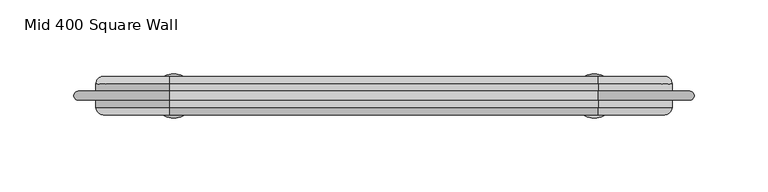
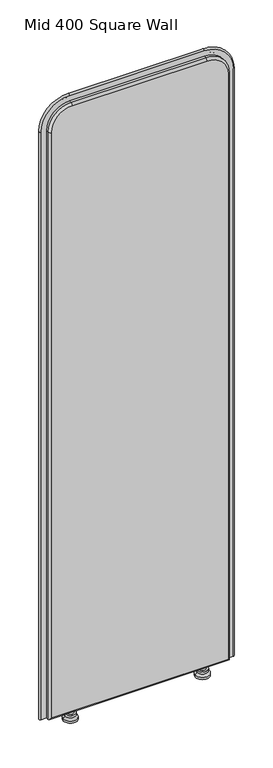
"""IFC4 building model written with IfcOpenShell, lengths in millimetres: furniture geometry, DBLTD_Sixteen3_PrivacyScreens_Artus_Square : Mid 400 Square Wall."""

import ifcopenshell
import ifcopenshell.guid

model = None  # the IFC model being written
_history = None  # IfcOwnerHistory: only IFC2X3 demands one
_inside = {}  # id of a spatial element -> (the spatial element, [elements in it])
_under = {}  # id of a project, library or spatial element -> (it, [spatial elements below it])
_declared = {}  # id of a project -> (the project, [libraries it declares])
_typed = {}  # id of a type object -> (the type object, [elements of that type])
_made_of = {}  # id of a material, layer set ... -> (it, [elements and type objects made of it])


def new_model(schema):
    """Start an empty IFC model of exactly this schema.

    Asked for "IFC4X3", IfcOpenShell would pick the latest addendum, in which some entities
    have other attributes; the version numbers below select the first issue.
    IFC2X3 requires an IfcOwnerHistory on every rooted entity: one is made here for all.
    """
    global model, _history
    if schema == "IFC4X3":
        model = ifcopenshell.file(schema_version=(4, 3, 0, 0))
    else:
        model = ifcopenshell.file(schema=schema)
    _inside.clear()
    _under.clear()
    _declared.clear()
    _typed.clear()
    _made_of.clear()
    _history = None
    if model.schema == "IFC2X3":
        org = make("IfcOrganization", Name="unknown")
        user = make(
            "IfcPersonAndOrganization",
            ThePerson=make("IfcPerson", FamilyName="unknown"),
            TheOrganization=org,
        )
        app = make(
            "IfcApplication",
            ApplicationDeveloper=org,
            Version="unknown",
            ApplicationFullName="unknown",
            ApplicationIdentifier="unknown",
        )
        _history = make(
            "IfcOwnerHistory",
            OwningUser=user,
            OwningApplication=app,
            ChangeAction="ADDED",
            CreationDate=0,
        )
    return model


def make(cls, **values):
    """One entity of the class cls with the attributes given. An attribute that is None is left unset."""
    return model.create_entity(
        cls, **{name: value for name, value in values.items() if value is not None}
    )


def rooted(cls, **values):
    """An entity with a GlobalId (a new one), such as an element, a storey or a relation."""
    return make(cls, GlobalId=ifcopenshell.guid.new(), OwnerHistory=_history, **values)


def si_unit(unit_type, name, prefix=None):
    """IfcSIUnit, for example si_unit("LENGTHUNIT", "METRE", prefix="MILLI")."""
    return make("IfcSIUnit", UnitType=unit_type, Prefix=prefix, Name=name)


def assignment(units):
    """IfcUnitAssignment: the units of a project."""
    return None if units is None else make("IfcUnitAssignment", Units=units)


def point(xyz):
    """IfcCartesianPoint."""
    return None if xyz is None else make("IfcCartesianPoint", Coordinates=xyz)


def direction(xyz):
    """IfcDirection."""
    return None if xyz is None else make("IfcDirection", DirectionRatios=xyz)


def frame(location, z_axis=None, x_axis=None):
    """IfcAxis2Placement3D, a coordinate frame: its origin and axes. An axis left out is left unset."""
    return make(
        "IfcAxis2Placement3D",
        Location=point(location),
        Axis=direction(z_axis),
        RefDirection=direction(x_axis),
    )


def origin():
    """The frame at (0, 0, 0) with its axes left unset."""
    return frame((0.0, 0.0, 0.0))


def place(relative_to, where):
    """IfcLocalPlacement: puts the frame where relative to a parent placement (None: the world)."""
    return make(
        "IfcLocalPlacement", PlacementRelTo=relative_to, RelativePlacement=where
    )


def context(
    kind, dimensions, precision=None, world=None, true_north=None, identifier=None
):
    """IfcGeometricRepresentationContext, for example the 3D "Model" context."""
    return make(
        "IfcGeometricRepresentationContext",
        ContextIdentifier=identifier,
        ContextType=kind,
        CoordinateSpaceDimension=dimensions,
        Precision=precision,
        WorldCoordinateSystem=world,
        TrueNorth=true_north,
    )


def project(units=None, contexts=None):
    """IfcProject with its units and contexts."""
    return rooted(
        "IfcProject",
        Name="project",
        RepresentationContexts=contexts,
        UnitsInContext=assignment(units),
    )


def spatial(cls, under=None, at=None, **own):
    """A site, building, storey or space (cls), placed at a placement, below another one or the project."""
    s = rooted(cls, ObjectPlacement=at, **own)
    if under is not None:
        _under.setdefault(under.id(), (under, []))[1].append(s)
    return s


def polyline(points):
    """IfcPolyline through the points."""
    return make("IfcPolyline", Points=[point(p) for p in points])


def circle_curve(where, radius):
    """IfcCircle in the frame where."""
    return make("IfcCircle", Position=where, Radius=radius)


def ellipse_curve(where, semi_axis1, semi_axis2):
    """IfcEllipse in the frame where."""
    return make(
        "IfcEllipse", Position=where, SemiAxis1=semi_axis1, SemiAxis2=semi_axis2
    )


def trimmed(basis, trim1, trim2, sense, master):
    """IfcTrimmedCurve: the piece of a basis curve between two trims."""
    return make(
        "IfcTrimmedCurve",
        BasisCurve=basis,
        Trim1=trim1,
        Trim2=trim2,
        SenseAgreement=sense,
        MasterRepresentation=master,
    )


def shape(context_of_items, identifier, shape_type, items):
    """IfcShapeRepresentation: the items that make up one representation, for example the "Body"."""
    return make(
        "IfcShapeRepresentation",
        ContextOfItems=context_of_items,
        RepresentationIdentifier=identifier,
        RepresentationType=shape_type,
        Items=items,
    )


def source(mapping_origin, context_of_items, identifier, shape_type, items):
    """IfcRepresentationMap: a shape defined once, which mapped items show again and again."""
    return make(
        "IfcRepresentationMap",
        MappingOrigin=mapping_origin,
        MappedRepresentation=shape(context_of_items, identifier, shape_type, items),
    )


def transform(
    local_origin,
    x_axis=None,
    y_axis=None,
    z_axis=None,
    scale=None,
    scale2=None,
    scale3=None,
    uniform=True,
):
    """IfcCartesianTransformationOperator3D, or its non-uniform kind. x_axis, y_axis, z_axis: its Axis1, 2, 3."""
    if uniform:
        return make(
            "IfcCartesianTransformationOperator3D",
            Axis1=direction(x_axis),
            Axis2=direction(y_axis),
            LocalOrigin=point(local_origin),
            Scale=scale,
            Axis3=direction(z_axis),
        )
    return make(
        "IfcCartesianTransformationOperator3DnonUniform",
        Axis1=direction(x_axis),
        Axis2=direction(y_axis),
        LocalOrigin=point(local_origin),
        Scale=scale,
        Axis3=direction(z_axis),
        Scale2=scale2,
        Scale3=scale3,
    )


def mapped(mapping_source, mapping_target):
    """IfcMappedItem: shows the shape of a source again, moved by a transform."""
    return make(
        "IfcMappedItem", MappingSource=mapping_source, MappingTarget=mapping_target
    )


def made_of(thing, what):
    """Note that an element or type object is made of a material, layer set ...; save() writes the relation."""
    if what is not None:
        _made_of.setdefault(what.id(), (what, []))[1].append(thing)
    return thing


def element(
    cls,
    number,
    at=None,
    inside=None,
    cuts=None,
    type_object=None,
    material=None,
    context=None,
    identifier="Body",
    shape_type=None,
    held_by="IfcProductDefinitionShape",
    body=None,
    shapes=None,
    **own,
):
    """One element of the class cls, such as IfcWall. Its Tag is "e" and its number.

    at: its placement. inside: the storey or other place that contains it. cuts: it is an
    opening in that element (IfcRelVoidsElement). A single representation is given by context,
    identifier, shape_type and body (its items); several are given by shapes. held_by: the class
    of the entity that holds the representations. save() writes the other relations.
    """
    e = rooted(cls, Tag="e%d" % number, ObjectPlacement=at, **own)
    if body is not None:
        shapes = [shape(context, identifier, shape_type, body)]
    if shapes is not None:
        e.Representation = make(held_by, Representations=shapes)
    if inside is not None:
        _inside.setdefault(inside.id(), (inside, []))[1].append(e)
    if cuts is not None:
        rooted(
            "IfcRelVoidsElement", RelatingBuildingElement=cuts, RelatedOpeningElement=e
        )
    if type_object is not None:
        _typed.setdefault(type_object.id(), (type_object, []))[1].append(e)
    return made_of(e, material)


def aggregate(whole, parts):
    """IfcRelAggregates: a whole, such as a stair, and the parts it consists of."""
    return rooted("IfcRelAggregates", RelatingObject=whole, RelatedObjects=parts)


def save(model, path):
    """Write the relations noted so far, then the file.

    IfcRelAggregates (storeys below a building ...), IfcRelContainedInSpatialStructure (elements
    in a storey), IfcRelDefinesByType, IfcRelAssociatesMaterial and IfcRelDeclares: one each for
    every whole, place, type object, material and project.
    """
    for whole, parts in _under.values():
        aggregate(whole, parts)
    for where, things in _inside.values():
        rooted(
            "IfcRelContainedInSpatialStructure",
            RelatedElements=things,
            RelatingStructure=where,
        )
    for kind, things in _typed.values():
        rooted("IfcRelDefinesByType", RelatedObjects=things, RelatingType=kind)
    for what, things in _made_of.values():
        rooted("IfcRelAssociatesMaterial", RelatedObjects=things, RelatingMaterial=what)
    for by, libraries in _declared.values():
        rooted("IfcRelDeclares", RelatingContext=by, RelatedDefinitions=libraries)
    model.write(path)


def plane_surface(at):
    """IfcPlane: the flat surface through the origin of the frame at, square to its z axis."""
    return make("IfcPlane", Position=at)


def cylinder_surface(at, radius):
    """IfcCylindricalSurface: all points at the distance radius from the z axis of the frame at."""
    return make("IfcCylindricalSurface", Position=at, Radius=radius)


def revolved_surface(curve, axis_point, axis_direction):
    """IfcSurfaceOfRevolution: the curve turned about the line through axis_point along axis_direction."""
    return make(
        "IfcSurfaceOfRevolution",
        SweptCurve=make("IfcArbitraryOpenProfileDef", ProfileType="CURVE", Curve=curve),
        AxisPosition=make("IfcAxis1Placement", Location=point(axis_point), Axis=direction(axis_direction)),
    )


def advanced_brep(points, edges, surfaces, faces):
    """IfcAdvancedBrep: a solid bounded by faces that lie on surfaces and meet in shared edges.

    An edge is (start, end): straight between two places in points (the first is 0);
    or (start, end, curve); or (start, end, curve, False) where it runs against its curve.
    A face is (place in surfaces, loops), or (place, loops, False) where it looks against
    its surface's normal. A loop lists edges by number (the first is 1), with a minus sign
    where the edge is run from its end to its start. The first loop is the outer one.
    """
    corners = [point(p) for p in points]
    vertices = [make("IfcVertexPoint", VertexGeometry=c) for c in corners]
    made = []
    for start, end, *more in edges:
        made.append(
            make(
                "IfcEdgeCurve",
                EdgeStart=vertices[start],
                EdgeEnd=vertices[end],
                EdgeGeometry=more[0] if more else make("IfcPolyline", Points=[corners[start], corners[end]]),
                SameSense=more[1] if len(more) > 1 else True,
            )
        )
    hull = []
    for where, loops, *sense in faces:
        bounds = []
        for j, loop in enumerate(loops):
            ring = [make("IfcOrientedEdge", EdgeElement=made[abs(k) - 1], Orientation=k > 0) for k in loop]
            bounds.append(
                make(
                    "IfcFaceOuterBound" if j == 0 else "IfcFaceBound",
                    Bound=make("IfcEdgeLoop", EdgeList=ring),
                    Orientation=True,
                )
            )
        hull.append(make("IfcAdvancedFace", Bounds=bounds, FaceSurface=surfaces[where], SameSense=sense[0] if sense else True))
    return make("IfcAdvancedBrep", Outer=make("IfcClosedShell", CfsFaces=hull))


def mid_400_square_wall_4edd793a(model_context):
    return source(origin(), model_context, "Body", "AdvancedBrep", [
        advanced_brep(
        [(142.2938623, -820.0, 22.0), (135.2938623, -820.0, 22.0), (149.2938623, -820.0, 22.0), (135.2938623, -820.0, 15.0), (149.2938623, -820.0, 15.0), (130.8431626, -820.0, 15.0), (153.744562, -820.0, 15.0), (130.8431626, -820.0, 10.0), (153.744562, -820.0, 10.0), (127.2938623, -820.0, 5.0), (157.2938623, -820.0, 5.0), (127.2938623, -820.0, 0.0), (157.2938623, -820.0, 0.0), (142.2938623, -820.0, 0.0)],
        [
            (0, 1),
            (1, 2, circle_curve(frame((142.2938623, -820.0, 22.0), z_axis=(0.0, 0.0, 1.0), x_axis=(1.0, 0.0, 0.0)), 7.0)),
            (2, 0),
            (2, 1, circle_curve(frame((142.2938623, -820.0, 22.0), z_axis=(0.0, 0.0, 1.0), x_axis=(1.0, 0.0, 0.0)), 7.0)),
            (1, 3),
            (3, 4, circle_curve(frame((142.2938623, -820.0, 15.0), z_axis=(0.0, 0.0, 1.0), x_axis=(1.0, 0.0, 0.0)), 7.0)),
            (4, 2),
            (4, 3, circle_curve(frame((142.2938623, -820.0, 15.0), z_axis=(0.0, 0.0, 1.0), x_axis=(1.0, 0.0, 0.0)), 7.0)),
            (3, 5),
            (5, 6, circle_curve(frame((142.2938623, -820.0, 15.0), z_axis=(0.0, 0.0, 1.0), x_axis=(1.0, 0.0, 0.0)), 11.4506997)),
            (6, 4),
            (6, 5, circle_curve(frame((142.2938623, -820.0, 15.0), z_axis=(0.0, 0.0, 1.0), x_axis=(1.0, 0.0, 0.0)), 11.4506997)),
            (5, 7),
            (7, 8, circle_curve(frame((142.2938623, -820.0, 10.0), z_axis=(0.0, 0.0, 1.0), x_axis=(1.0, 0.0, 0.0)), 11.4506997)),
            (8, 6),
            (8, 7, circle_curve(frame((142.2938623, -820.0, 10.0), z_axis=(0.0, 0.0, 1.0), x_axis=(1.0, 0.0, 0.0)), 11.4506997)),
            (7, 9),
            (9, 10, circle_curve(frame((142.2938623, -820.0, 5.0), z_axis=(0.0, 0.0, 1.0), x_axis=(1.0, 0.0, 0.0)), 15.0)),
            (10, 8),
            (10, 9, circle_curve(frame((142.2938623, -820.0, 5.0), z_axis=(0.0, 0.0, 1.0), x_axis=(1.0, 0.0, 0.0)), 15.0)),
            (9, 11),
            (11, 12, circle_curve(frame((142.2938623, -820.0, 0.0), z_axis=(0.0, 0.0, 1.0), x_axis=(1.0, 0.0, 0.0)), 15.0)),
            (12, 10),
            (12, 11, circle_curve(frame((142.2938623, -820.0, 0.0), z_axis=(0.0, 0.0, 1.0), x_axis=(1.0, 0.0, 0.0)), 15.0)),
            (11, 13),
            (13, 12),
        ],
        [
            plane_surface(frame((142.2938623, -820.0, 22.0), z_axis=(0.0, 0.0, 1.0), x_axis=(1.0, 0.0, 0.0))),
            cylinder_surface(frame((142.2938623, -820.0, 5.0), z_axis=(0.0, 0.0, 1.0), x_axis=(1.0, 0.0, 0.0)), 7.0),
            plane_surface(frame((142.2938623, -820.0, 15.0), z_axis=(0.0, 0.0, 1.0), x_axis=(1.0, 0.0, 0.0))),
            cylinder_surface(frame((142.2938623, -820.0, 5.0), z_axis=(0.0, 0.0, 1.0), x_axis=(1.0, 0.0, 0.0)), 11.4506997),
            revolved_surface(polyline([(157.2938623, -820.0, 5.0), (153.744562, -820.0, 10.0)]), (142.2938623, -820.0, 5.0), (0.0, 0.0, 1.0)),
            cylinder_surface(frame((142.2938623, -820.0, 5.0), z_axis=(0.0, 0.0, 1.0), x_axis=(1.0, 0.0, 0.0)), 15.0),
            plane_surface(frame((142.2938623, -820.0, 0.0), z_axis=(0.0, 0.0, -1.0), x_axis=(1.0, 0.0, 0.0))),
        ],
        [
            (0, [[1, 2, 3]]),
            (0, [[-3, 4, -1]]),
            (1, [[5, 6, 7, -2]]),
            (1, [[-7, 8, -5, -4]]),
            (2, [[9, 10, 11, -6]]),
            (2, [[-11, 12, -9, -8]]),
            (3, [[13, 14, 15, -10]]),
            (3, [[-15, 16, -13, -12]]),
            (4, [[17, 18, 19, -14]]),
            (4, [[-19, 20, -17, -16]]),
            (5, [[21, 22, 23, -18]]),
            (5, [[-23, 24, -21, -20]]),
            (6, [[25, 26, -22]]),
            (6, [[-26, -25, -24]]),
        ],
    ),
        advanced_brep(
        [(-135.2938623, -820.0, 22.0), (-142.2938623, -820.0, 22.0), (-149.2938623, -820.0, 22.0), (-135.2938623, -820.0, 15.0), (-149.2938623, -820.0, 15.0), (-130.8431626, -820.0, 15.0), (-153.744562, -820.0, 15.0), (-130.8431626, -820.0, 10.0), (-153.744562, -820.0, 10.0), (-127.2938623, -820.0, 5.0), (-157.2938623, -820.0, 5.0), (-127.2938623, -820.0, 0.0), (-157.2938623, -820.0, 0.0), (-142.2938623, -820.0, 0.0)],
        [
            (0, 1),
            (1, 2),
            (2, 0, circle_curve(frame((-142.2938623, -820.0, 22.0), z_axis=(0.0, 0.0, 1.0), x_axis=(-1.0, 0.0, 0.0)), 7.0)),
            (0, 2, circle_curve(frame((-142.2938623, -820.0, 22.0), z_axis=(0.0, 0.0, 1.0), x_axis=(-1.0, 0.0, 0.0)), 7.0)),
            (3, 0),
            (2, 4),
            (4, 3, circle_curve(frame((-142.2938623, -820.0, 15.0), z_axis=(0.0, 0.0, 1.0), x_axis=(-1.0, 0.0, 0.0)), 7.0)),
            (3, 4, circle_curve(frame((-142.2938623, -820.0, 15.0), z_axis=(0.0, 0.0, 1.0), x_axis=(-1.0, 0.0, 0.0)), 7.0)),
            (5, 3),
            (4, 6),
            (6, 5, circle_curve(frame((-142.2938623, -820.0, 15.0), z_axis=(0.0, 0.0, 1.0), x_axis=(-1.0, 0.0, 0.0)), 11.4506997)),
            (5, 6, circle_curve(frame((-142.2938623, -820.0, 15.0), z_axis=(0.0, 0.0, 1.0), x_axis=(-1.0, 0.0, 0.0)), 11.4506997)),
            (7, 5),
            (6, 8),
            (8, 7, circle_curve(frame((-142.2938623, -820.0, 10.0), z_axis=(0.0, 0.0, 1.0), x_axis=(-1.0, 0.0, 0.0)), 11.4506997)),
            (7, 8, circle_curve(frame((-142.2938623, -820.0, 10.0), z_axis=(0.0, 0.0, 1.0), x_axis=(-1.0, 0.0, 0.0)), 11.4506997)),
            (9, 7),
            (8, 10),
            (10, 9, circle_curve(frame((-142.2938623, -820.0, 5.0), z_axis=(0.0, 0.0, 1.0), x_axis=(-1.0, 0.0, 0.0)), 15.0)),
            (9, 10, circle_curve(frame((-142.2938623, -820.0, 5.0), z_axis=(0.0, 0.0, 1.0), x_axis=(-1.0, 0.0, 0.0)), 15.0)),
            (11, 9),
            (10, 12),
            (12, 11, circle_curve(frame((-142.2938623, -820.0, 0.0), z_axis=(0.0, 0.0, 1.0), x_axis=(-1.0, 0.0, 0.0)), 15.0)),
            (11, 12, circle_curve(frame((-142.2938623, -820.0, 0.0), z_axis=(0.0, 0.0, 1.0), x_axis=(-1.0, 0.0, 0.0)), 15.0)),
            (13, 11),
            (12, 13),
        ],
        [
            plane_surface(frame((-142.2938623, -820.0, 22.0), z_axis=(0.0, 0.0, 1.0), x_axis=(-1.0, 0.0, 0.0))),
            cylinder_surface(frame((-142.2938623, -820.0, 5.0), z_axis=(0.0, 0.0, -1.0), x_axis=(-1.0, 0.0, 0.0)), 7.0),
            plane_surface(frame((-142.2938623, -820.0, 15.0), z_axis=(0.0, 0.0, 1.0), x_axis=(-1.0, 0.0, 0.0))),
            cylinder_surface(frame((-142.2938623, -820.0, 5.0), z_axis=(0.0, 0.0, -1.0), x_axis=(-1.0, 0.0, 0.0)), 11.4506997),
            revolved_surface(polyline([(-153.744562, -820.0, 10.0), (-157.2938623, -820.0, 5.0)]), (-142.2938623, -820.0, 5.0), (0.0, 0.0, -1.0)),
            cylinder_surface(frame((-142.2938623, -820.0, 5.0), z_axis=(0.0, 0.0, -1.0), x_axis=(-1.0, 0.0, 0.0)), 15.0),
            plane_surface(frame((-142.2938623, -820.0, 0.0), z_axis=(0.0, 0.0, -1.0), x_axis=(-1.0, 0.0, 0.0))),
        ],
        [
            (0, [[1, 2, 3]]),
            (0, [[-2, -1, 4]]),
            (1, [[5, -3, 6, 7]]),
            (1, [[-6, -4, -5, 8]]),
            (2, [[9, -7, 10, 11]]),
            (2, [[-10, -8, -9, 12]]),
            (3, [[13, -11, 14, 15]]),
            (3, [[-14, -12, -13, 16]]),
            (4, [[17, -15, 18, 19]]),
            (4, [[-18, -16, -17, 20]]),
            (5, [[21, -19, 22, 23]]),
            (5, [[-22, -20, -21, 24]]),
            (6, [[25, -23, 26]]),
            (6, [[-26, -24, -25]]),
        ],
    ),
        advanced_brep(
        [(-190.0, -807.0, 27.0), (-190.0, -807.0, 1360.0), (-145.0, -807.0, 1405.0), (145.0, -807.0, 1405.0), (190.0, -807.0, 1360.0), (190.0, -807.0, 27.0), (190.0, -833.0, 27.0), (190.0, -833.0, 1360.0), (145.0, -833.0, 1405.0), (-145.0, -833.0, 1405.0), (-190.0, -833.0, 1360.0), (-190.0, -833.0, 27.0), (145.0, -812.0, 1410.0), (-145.0, -812.0, 1410.0), (-145.0, -828.0, 1410.0), (145.0, -828.0, 1410.0), (-195.0, -812.0, 1360.0), (-195.0, -828.0, 1360.0), (-195.0, -812.0, 22.0), (-195.0, -828.0, 22.0), (195.0, -812.0, 22.0), (195.0, -828.0, 22.0), (195.0, -812.0, 1360.0), (195.0, -828.0, 1360.0)],
        [
            (0, 1),
            (1, 2, circle_curve(frame((-145.0, -807.0, 1360.0), z_axis=(0.0, 1.0, 0.0), x_axis=(0.0, 0.0, 1.0)), 45.0)),
            (2, 3),
            (3, 4, circle_curve(frame((145.0, -807.0, 1360.0), z_axis=(0.0, 1.0, 0.0), x_axis=(1.0, 0.0, 0.0)), 45.0)),
            (4, 5),
            (5, 0),
            (6, 7),
            (7, 8, circle_curve(frame((145.0, -833.0, 1360.0), z_axis=(0.0, -1.0, 0.0), x_axis=(1.0, 0.0, 0.0)), 45.0)),
            (8, 9),
            (9, 10, circle_curve(frame((-145.0, -833.0, 1360.0), z_axis=(0.0, -1.0, 0.0), x_axis=(0.0, 0.0, 1.0)), 45.0)),
            (10, 11),
            (11, 6),
            (12, 13),
            (13, 14),
            (14, 15),
            (15, 12),
            (13, 16, circle_curve(frame((-145.0, -812.0, 1360.0), z_axis=(0.0, -1.0, 0.0), x_axis=(1.0, 0.0, 0.0)), 50.0)),
            (16, 17),
            (17, 14, circle_curve(frame((-145.0, -828.0, 1360.0), z_axis=(0.0, 1.0, 0.0), x_axis=(1.0, 0.0, 0.0)), 50.0)),
            (16, 18),
            (18, 19),
            (19, 17),
            (18, 20),
            (20, 21),
            (21, 19),
            (20, 22),
            (22, 23),
            (23, 21),
            (15, 23, circle_curve(frame((145.0, -828.0, 1360.0), z_axis=(0.0, 1.0, 0.0), x_axis=(1.0, 0.0, 0.0)), 50.0)),
            (22, 12, circle_curve(frame((145.0, -812.0, 1360.0), z_axis=(0.0, -1.0, 0.0), x_axis=(1.0, 0.0, 0.0)), 50.0)),
            (18, 0, ellipse_curve(frame((-190.0, -812.0, 27.0), z_axis=(0.7071067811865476, 0.0, -0.7071067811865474), x_axis=(0.7071067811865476, 0.0, 0.7071067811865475)), 7.0710678, 5.0)),
            (5, 20, ellipse_curve(frame((190.0, -812.0, 27.0), z_axis=(-0.7071067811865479, 0.0, -0.707106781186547), x_axis=(0.7071067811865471, 0.0, -0.7071067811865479)), 7.0710678, 5.0)),
            (11, 19, ellipse_curve(frame((-190.0, -828.0, 27.0), z_axis=(0.7071067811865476, 0.0, -0.7071067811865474), x_axis=(0.7071067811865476, 0.0, 0.7071067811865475)), 7.0710678, 5.0)),
            (21, 6, ellipse_curve(frame((190.0, -828.0, 27.0), z_axis=(-0.7071067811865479, 0.0, -0.707106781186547), x_axis=(0.7071067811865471, 0.0, -0.7071067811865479)), 7.0710678, 5.0)),
            (4, 22, circle_curve(frame((190.0, -812.0, 1360.0), z_axis=(0.0, 0.0, -1.0), x_axis=(1.0, 0.0, 0.0)), 5.0)),
            (23, 7, circle_curve(frame((190.0, -828.0, 1360.0), z_axis=(0.0, 0.0, -1.0), x_axis=(1.0, 0.0, 0.0)), 5.0)),
            (3, 12, circle_curve(frame((145.0, -812.0, 1405.0), z_axis=(1.0, 0.0, 0.0), x_axis=(0.0, 0.0, 1.0)), 5.0)),
            (15, 8, circle_curve(frame((145.0, -828.0, 1405.0), z_axis=(1.0, 0.0, 0.0), x_axis=(0.0, 0.0, 1.0)), 5.0)),
            (2, 13, circle_curve(frame((-145.0, -812.0, 1405.0), z_axis=(1.0, 0.0, 0.0), x_axis=(0.0, 0.0, 1.0)), 5.0)),
            (14, 9, circle_curve(frame((-145.0, -828.0, 1405.0), z_axis=(1.0, 0.0, 0.0), x_axis=(0.0, 0.0, 1.0)), 5.0)),
            (1, 16, circle_curve(frame((-190.0, -812.0, 1360.0), z_axis=(0.0, 0.0, 1.0), x_axis=(-1.0, 0.0, 0.0)), 5.0)),
            (17, 10, circle_curve(frame((-190.0, -828.0, 1360.0), z_axis=(0.0, 0.0, 1.0), x_axis=(-1.0, 0.0, 0.0)), 5.0)),
        ],
        [
            plane_surface(frame((-145.0, -807.0, 1410.0), z_axis=(0.0, 1.0, 0.0), x_axis=(-1.0, 0.0, 0.0))),
            plane_surface(frame((-145.0, -833.0, 1410.0), z_axis=(0.0, -1.0, 0.0), x_axis=(1.0, 0.0, 0.0))),
            plane_surface(frame((145.0, -807.0, 1410.0), z_axis=(0.0, 0.0, 1.0), x_axis=(0.0, -1.0, 0.0))),
            cylinder_surface(frame((-145.0, -833.0, 1360.0), z_axis=(0.0, 1.0, 0.0), x_axis=(1.0, 0.0, 0.0)), 50.0),
            plane_surface(frame((-195.0, -807.0, 1360.0), z_axis=(-1.0, 0.0, 0.0), x_axis=(0.0, -1.0, 0.0))),
            plane_surface(frame((-195.0, -807.0, 22.0), z_axis=(0.0, 0.0, -1.0), x_axis=(0.0, -1.0, 0.0))),
            plane_surface(frame((195.0, -807.0, 22.0), z_axis=(1.0, 0.0, 0.0), x_axis=(0.0, -1.0, 0.0))),
            cylinder_surface(frame((145.0, -833.0, 1360.0), z_axis=(0.0, 1.0, 0.0), x_axis=(1.0, 0.0, 0.0)), 50.0),
            cylinder_surface(frame((-195.0, -812.0, 27.0), z_axis=(1.0, 0.0, 0.0), x_axis=(0.0, 0.0, -1.0)), 5.0),
            cylinder_surface(frame((-195.0, -828.0, 27.0), z_axis=(1.0, 0.0, 0.0), x_axis=(0.0, 0.0, -1.0)), 5.0),
            cylinder_surface(frame((190.0, -812.0, 22.0), z_axis=(0.0, 0.0, 1.0), x_axis=(1.0, 0.0, 0.0)), 5.0),
            cylinder_surface(frame((190.0, -828.0, 22.0), z_axis=(0.0, 0.0, 1.0), x_axis=(1.0, 0.0, 0.0)), 5.0),
            revolved_surface(trimmed(ellipse_curve(frame((190.0, -812.0, 1360.0), z_axis=(0.0, 0.0, 1.0), x_axis=(1.0, 0.0, 0.0)), 5.0, 5.0), [point((195.0, -812.0, 1360.0))], [point((190.0, -807.0, 1360.0))], True, "CARTESIAN"), (145.0, -807.0, 1360.0), (0.0, 1.0, 0.0)),
            revolved_surface(trimmed(ellipse_curve(frame((190.0, -828.0, 1360.0), z_axis=(0.0, 0.0, 1.0), x_axis=(1.0, 0.0, 0.0)), 5.0, 5.0), [point((190.0, -833.0, 1360.0))], [point((195.0, -828.0, 1360.0))], True, "CARTESIAN"), (145.0, -807.0, 1360.0), (0.0, 1.0, 0.0)),
            cylinder_surface(frame((145.0, -812.0, 1405.0), z_axis=(-1.0, 0.0, 0.0), x_axis=(0.0, 0.0, 1.0)), 5.0),
            cylinder_surface(frame((145.0, -828.0, 1405.0), z_axis=(-1.0, 0.0, 0.0), x_axis=(0.0, 0.0, 1.0)), 5.0),
            revolved_surface(trimmed(ellipse_curve(frame((-145.0, -812.0, 1405.0), z_axis=(-1.0, 0.0, 0.0), x_axis=(0.0, 0.0, 1.0)), 5.0, 5.0), [point((-145.0, -812.0, 1410.0))], [point((-145.0, -807.0, 1405.0))], True, "CARTESIAN"), (-145.0, -807.0, 1360.0), (0.0, 1.0, 0.0)),
            revolved_surface(trimmed(ellipse_curve(frame((-145.0, -828.0, 1405.0), z_axis=(-1.0, 0.0, 0.0), x_axis=(0.0, 0.0, 1.0)), 5.0, 5.0), [point((-145.0, -833.0, 1405.0))], [point((-145.0, -828.0, 1410.0))], True, "CARTESIAN"), (-145.0, -807.0, 1360.0), (0.0, 1.0, 0.0)),
            cylinder_surface(frame((-190.0, -812.0, 1360.0), z_axis=(0.0, 0.0, -1.0), x_axis=(-1.0, 0.0, 0.0)), 5.0),
            cylinder_surface(frame((-190.0, -828.0, 1360.0), z_axis=(0.0, 0.0, -1.0), x_axis=(-1.0, 0.0, 0.0)), 5.0),
        ],
        [
            (0, [[1, 2, 3, 4, 5, 6]]),
            (1, [[7, 8, 9, 10, 11, 12]]),
            (2, [[13, 14, 15, 16]]),
            (3, [[17, 18, 19, -14]]),
            (4, [[20, 21, 22, -18]]),
            (5, [[23, 24, 25, -21]]),
            (6, [[26, 27, 28, -24]]),
            (7, [[29, -27, 30, -16]]),
            (8, [[-23, 31, -6, 32]]),
            (9, [[-12, 33, -25, 34]]),
            (10, [[-5, 35, -26, -32]]),
            (11, [[-28, 36, -7, -34]]),
            (12, [[-4, 37, -30, -35]]),
            (13, [[-29, 38, -8, -36]]),
            (14, [[-3, 39, -13, -37]]),
            (15, [[-15, 40, -9, -38]]),
            (16, [[-2, 41, -17, -39]]),
            (17, [[-19, 42, -10, -40]]),
            (18, [[-20, -41, -1, -31]]),
            (19, [[-11, -42, -22, -33]]),
        ],
    ),
        advanced_brep(
        [(206.9577057, -823.0, 22.0), (195.0, -823.0, 22.0), (195.0, -817.0, 22.0), (206.9577057, -817.0, 22.0), (206.9577057, -817.0, 1360.0), (206.9577057, -823.0, 1360.0), (195.0, -817.0, 1360.0), (145.0, -817.0, 1410.0), (-145.0, -817.0, 1410.0), (-195.0, -817.0, 1360.0), (-195.0, -817.0, 22.0), (-206.9577057, -817.0, 22.0), (-206.9577057, -817.0, 1360.0), (-145.0, -817.0, 1421.9577057), (145.0, -817.0, 1421.9577057), (195.0, -823.0, 1360.0), (145.0, -823.0, 1421.9577057), (-145.0, -823.0, 1421.9577057), (-206.9577057, -823.0, 1360.0), (-206.9577057, -823.0, 22.0), (-195.0, -823.0, 22.0), (-195.0, -823.0, 1360.0), (-145.0, -823.0, 1410.0), (145.0, -823.0, 1410.0)],
        [
            (0, 1),
            (1, 2),
            (2, 3),
            (3, 0, circle_curve(frame((206.9577057, -820.0, 22.0), z_axis=(0.0, 0.0, -1.0), x_axis=(1.0, 0.0, 0.0)), 3.0)),
            (3, 4),
            (4, 5, circle_curve(frame((206.9577057, -820.0, 1360.0), z_axis=(0.0, 0.0, -1.0), x_axis=(1.0, 0.0, 0.0)), 3.0)),
            (5, 0),
            (2, 6),
            (6, 7, circle_curve(frame((145.0, -817.0, 1360.0), z_axis=(0.0, -1.0, 0.0), x_axis=(1.0, 0.0, 0.0)), 50.0)),
            (7, 8),
            (8, 9, circle_curve(frame((-145.0, -817.0, 1360.0), z_axis=(0.0, -1.0, 0.0), x_axis=(0.0, 0.0, 1.0)), 50.0)),
            (9, 10),
            (10, 11),
            (11, 12),
            (12, 13, circle_curve(frame((-145.0, -817.0, 1360.0), z_axis=(0.0, 1.0, 0.0), x_axis=(0.0, 0.0, 1.0)), 61.9577057)),
            (13, 14),
            (14, 4, circle_curve(frame((145.0, -817.0, 1360.0), z_axis=(0.0, 1.0, 0.0), x_axis=(1.0, 0.0, 0.0)), 61.9577057)),
            (1, 15),
            (15, 6),
            (5, 16, circle_curve(frame((145.0, -823.0, 1360.0), z_axis=(0.0, -1.0, 0.0), x_axis=(1.0, 0.0, 0.0)), 61.9577057)),
            (16, 17),
            (17, 18, circle_curve(frame((-145.0, -823.0, 1360.0), z_axis=(0.0, -1.0, 0.0), x_axis=(0.0, 0.0, 1.0)), 61.9577057)),
            (18, 19),
            (19, 20),
            (20, 21),
            (21, 22, circle_curve(frame((-145.0, -823.0, 1360.0), z_axis=(0.0, 1.0, 0.0), x_axis=(0.0, 0.0, 1.0)), 50.0)),
            (22, 23),
            (23, 15, circle_curve(frame((145.0, -823.0, 1360.0), z_axis=(0.0, 1.0, 0.0), x_axis=(1.0, 0.0, 0.0)), 50.0)),
            (14, 16, circle_curve(frame((145.0, -820.0, 1421.9577057), z_axis=(1.0, 0.0, 0.0), x_axis=(0.0, 0.0, 1.0)), 3.0)),
            (23, 7),
            (13, 17, circle_curve(frame((-145.0, -820.0, 1421.9577057), z_axis=(1.0, 0.0, 0.0), x_axis=(0.0, 0.0, 1.0)), 3.0)),
            (22, 8),
            (12, 18, circle_curve(frame((-206.9577057, -820.0, 1360.0), z_axis=(0.0, 0.0, 1.0), x_axis=(-1.0, 0.0, 0.0)), 3.0)),
            (21, 9),
            (19, 11, circle_curve(frame((-206.9577057, -820.0, 22.0), z_axis=(0.0, 0.0, -1.0), x_axis=(-1.0, 0.0, 0.0)), 3.0)),
            (10, 20),
        ],
        [
            plane_surface(frame((195.0, -807.0, 22.0), z_axis=(0.0, 0.0, -1.0), x_axis=(1.0, 0.0, 0.0))),
            cylinder_surface(frame((206.9577057, -820.0, 22.0), z_axis=(0.0, 0.0, -1.0), x_axis=(1.0, 0.0, 0.0)), 3.0),
            plane_surface(frame((206.9577057, -817.0, 22.0), z_axis=(0.0, 1.0, 0.0), x_axis=(0.0, 0.0, 1.0))),
            plane_surface(frame((195.0, -817.0, 22.0), z_axis=(-1.0, 0.0, 0.0), x_axis=(0.0, 0.0, 1.0))),
            plane_surface(frame((195.0, -823.0, 22.0), z_axis=(0.0, -1.0, 0.0), x_axis=(0.0, 0.0, 1.0))),
            revolved_surface(trimmed(ellipse_curve(frame((206.9577057, -820.0, 1360.0), z_axis=(0.0, 0.0, 1.0), x_axis=(1.0, 0.0, 0.0)), 3.0, 3.0), [point((206.9577057, -823.0, 1360.0))], [point((206.9577057, -817.0, 1360.0))], True, "CARTESIAN"), (145.0, -807.0, 1360.0), (0.0, 1.0, 0.0)),
            revolved_surface(polyline([(195.0, -817.0, 1360.0), (195.0, -823.0, 1360.0)]), (145.0, -807.0, 1360.0), (0.0, 1.0, 0.0)),
            cylinder_surface(frame((145.0, -820.0, 1421.9577057), z_axis=(1.0, 0.0, 0.0), x_axis=(0.0, 0.0, 1.0)), 3.0),
            plane_surface(frame((145.0, -817.0, 1410.0), z_axis=(0.0, 0.0, -1.0), x_axis=(-1.0, 0.0, 0.0))),
            revolved_surface(trimmed(ellipse_curve(frame((-145.0, -820.0, 1421.9577057), z_axis=(-1.0, 0.0, 0.0), x_axis=(0.0, 0.0, 1.0)), 3.0, 3.0), [point((-145.0, -823.0, 1421.9577057))], [point((-145.0, -817.0, 1421.9577057))], True, "CARTESIAN"), (-145.0, -807.0, 1360.0), (0.0, 1.0, 0.0)),
            revolved_surface(polyline([(-145.0, -817.0, 1410.0), (-145.0, -823.0, 1410.0)]), (-145.0, -807.0, 1360.0), (0.0, 1.0, 0.0)),
            plane_surface(frame((-195.0, -807.0, 22.0), z_axis=(0.0, 0.0, -1.0), x_axis=(-1.0, 0.0, 0.0))),
            cylinder_surface(frame((-206.9577057, -820.0, 1360.0), z_axis=(0.0, 0.0, 1.0), x_axis=(-1.0, 0.0, 0.0)), 3.0),
            plane_surface(frame((-195.0, -817.0, 1360.0), z_axis=(1.0, 0.0, 0.0), x_axis=(0.0, 0.0, -1.0))),
        ],
        [
            (0, [[1, 2, 3, 4]]),
            (1, [[5, 6, 7, -4]]),
            (2, [[8, 9, 10, 11, 12, 13, 14, 15, 16, 17, -5, -3]]),
            (3, [[18, 19, -8, -2]]),
            (4, [[-7, 20, 21, 22, 23, 24, 25, 26, 27, 28, -18, -1]]),
            (5, [[29, -20, -6, -17]]),
            (6, [[30, -9, -19, -28]]),
            (7, [[-16, 31, -21, -29]]),
            (8, [[-27, 32, -10, -30]]),
            (9, [[33, -22, -31, -15]]),
            (10, [[34, -11, -32, -26]]),
            (11, [[35, -13, 36, -24]]),
            (12, [[-14, -35, -23, -33]]),
            (13, [[-25, -36, -12, -34]]),
        ],
    ),
    ])


if __name__ == "__main__":
    model = new_model("IFC4")
    model_context = context("Model", 3, world=origin())
    ifc_project = project(units=[si_unit("LENGTHUNIT", "METRE", prefix="MILLI")], contexts=[model_context])
    site = spatial("IfcSite", under=ifc_project)
    building = spatial("IfcBuilding", under=site)
    placement = place(None, origin())
    mid_400_square_wall_shape = mid_400_square_wall_4edd793a(model_context)
    element("IfcFurniture", 1, ObjectType="DBLTD_Sixteen3_PrivacyScreens_Artus_Square : Mid 400 Square Wall", at=placement, inside=building, context=model_context, shape_type="MappedRepresentation", body=[
        mapped(mid_400_square_wall_shape, transform((0.0, 0.0, 0.0), x_axis=(1.0, 0.0, 0.0), y_axis=(0.0, 1.0, 0.0), z_axis=(0.0, 0.0, 1.0))),
    ])
    save(model, "model.ifc")
